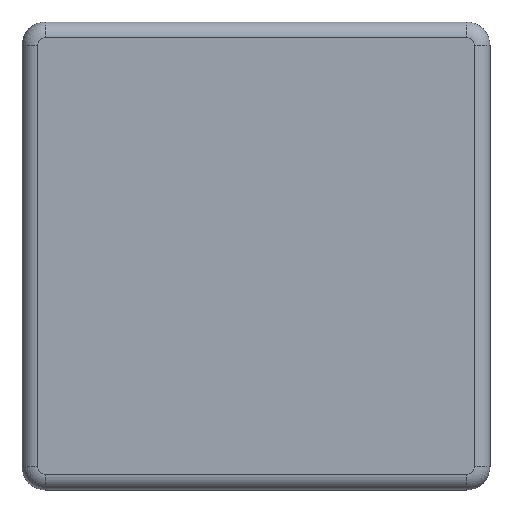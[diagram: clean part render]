
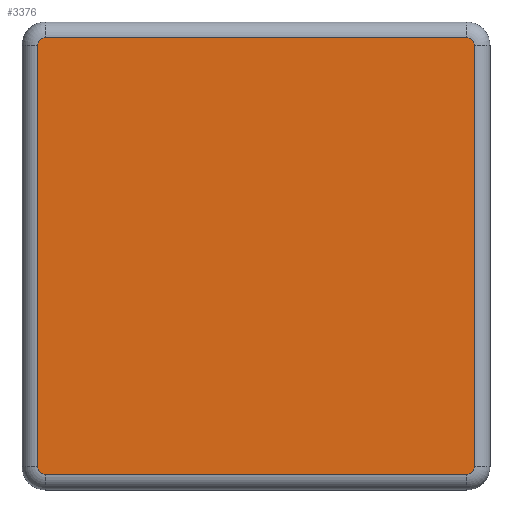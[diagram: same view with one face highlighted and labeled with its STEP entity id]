
A CAD part, front view. The second image highlights one B-rep face of the part: STEP entity #3376.
In plain terms, the highlighted planar face has unit normal (0, -1, 0).
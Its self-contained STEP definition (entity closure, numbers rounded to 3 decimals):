
#93 = CIRCLE ( 'NONE', #1646, 1. ) ;
#189 = CARTESIAN_POINT ( 'NONE',  ( 28.448, 0., 24.812 ) ) ;
#277 = LINE ( 'NONE', #1024, #1588 ) ;
#336 = VERTEX_POINT ( 'NONE', #2210 ) ;
#425 = ORIENTED_EDGE ( 'NONE', *, *, #679, .T. ) ;
#429 = VERTEX_POINT ( 'NONE', #2458 ) ;
#447 = LINE ( 'NONE', #3098, #1192 ) ;
#483 = DIRECTION ( 'NONE',  ( 0., 0., 1. ) ) ;
#555 = EDGE_CURVE ( 'NONE', #1368, #1278, #951, .T. ) ;
#564 = DIRECTION ( 'NONE',  ( 0., 1., 0. ) ) ;
#670 = CARTESIAN_POINT ( 'NONE',  ( -25.552, 0., -29.188 ) ) ;
#679 = EDGE_CURVE ( 'NONE', #3561, #429, #277, .T. ) ;
#740 = EDGE_CURVE ( 'NONE', #2325, #820, #1502, .T. ) ;
#748 = ORIENTED_EDGE ( 'NONE', *, *, #3384, .T. ) ;
#770 = CARTESIAN_POINT ( 'NONE',  ( 29.448, 0., -29.188 ) ) ;
#820 = VERTEX_POINT ( 'NONE', #2412 ) ;
#843 = CARTESIAN_POINT ( 'NONE',  ( -26.552, 0., 0. ) ) ;
#844 = CARTESIAN_POINT ( 'NONE',  ( 0., 0., 25.812 ) ) ;
#872 = CARTESIAN_POINT ( 'NONE',  ( -26.552, 0., -29.188 ) ) ;
#951 = CIRCLE ( 'NONE', #1213, 1. ) ;
#952 = DIRECTION ( 'NONE',  ( 0., 0., 1. ) ) ;
#987 = ORIENTED_EDGE ( 'NONE', *, *, #555, .T. ) ;
#1024 = CARTESIAN_POINT ( 'NONE',  ( 29.448, 0., 0. ) ) ;
#1086 = CIRCLE ( 'NONE', #1618, 1. ) ;
#1106 = VECTOR ( 'NONE', #3665, 1000. ) ;
#1192 = VECTOR ( 'NONE', #1402, 1000. ) ;
#1213 = AXIS2_PLACEMENT_3D ( 'NONE', #3300, #1600, #3584 ) ;
#1278 = VERTEX_POINT ( 'NONE', #2955 ) ;
#1337 = VECTOR ( 'NONE', #2831, 1000. ) ;
#1364 = EDGE_CURVE ( 'NONE', #1423, #1368, #2092, .T. ) ;
#1368 = VERTEX_POINT ( 'NONE', #3104 ) ;
#1402 = DIRECTION ( 'NONE',  ( 1., 0., 0. ) ) ;
#1423 = VERTEX_POINT ( 'NONE', #2855 ) ;
#1443 = DIRECTION ( 'NONE',  ( 0., -1., 0. ) ) ;
#1502 = CIRCLE ( 'NONE', #3288, 1. ) ;
#1588 = VECTOR ( 'NONE', #2418, 1000. ) ;
#1600 = DIRECTION ( 'NONE',  ( 0., -1., 0. ) ) ;
#1618 = AXIS2_PLACEMENT_3D ( 'NONE', #3140, #1443, #3425 ) ;
#1646 = AXIS2_PLACEMENT_3D ( 'NONE', #189, #2160, #483 ) ;
#1769 = EDGE_LOOP ( 'NONE', ( #2053, #987, #748, #2062, #3649, #3129, #425, #1857 ) ) ;
#1857 = ORIENTED_EDGE ( 'NONE', *, *, #3508, .T. ) ;
#1933 = LINE ( 'NONE', #843, #1106 ) ;
#2032 = FACE_OUTER_BOUND ( 'NONE', #1769, .T. ) ;
#2053 = ORIENTED_EDGE ( 'NONE', *, *, #1364, .T. ) ;
#2062 = ORIENTED_EDGE ( 'NONE', *, *, #740, .T. ) ;
#2092 = LINE ( 'NONE', #844, #1337 ) ;
#2160 = DIRECTION ( 'NONE',  ( 0., -1., 0. ) ) ;
#2210 = CARTESIAN_POINT ( 'NONE',  ( 28.448, 0., -30.188 ) ) ;
#2241 = CARTESIAN_POINT ( 'NONE',  ( 0., 0., 0. ) ) ;
#2325 = VERTEX_POINT ( 'NONE', #872 ) ;
#2367 = EDGE_CURVE ( 'NONE', #336, #3561, #1086, .T. ) ;
#2412 = CARTESIAN_POINT ( 'NONE',  ( -25.552, 0., -30.188 ) ) ;
#2418 = DIRECTION ( 'NONE',  ( 0., 0., 1. ) ) ;
#2458 = CARTESIAN_POINT ( 'NONE',  ( 29.448, 0., 24.812 ) ) ;
#2536 = DIRECTION ( 'NONE',  ( 0., 0., 1. ) ) ;
#2643 = DIRECTION ( 'NONE',  ( 0., -1., 0. ) ) ;
#2831 = DIRECTION ( 'NONE',  ( -1., 0., 0. ) ) ;
#2855 = CARTESIAN_POINT ( 'NONE',  ( 28.448, 0., 25.812 ) ) ;
#2955 = CARTESIAN_POINT ( 'NONE',  ( -26.552, 0., 24.812 ) ) ;
#3098 = CARTESIAN_POINT ( 'NONE',  ( 0., 0., -30.188 ) ) ;
#3104 = CARTESIAN_POINT ( 'NONE',  ( -25.552, 0., 25.812 ) ) ;
#3129 = ORIENTED_EDGE ( 'NONE', *, *, #2367, .T. ) ;
#3140 = CARTESIAN_POINT ( 'NONE',  ( 28.448, 0., -29.188 ) ) ;
#3288 = AXIS2_PLACEMENT_3D ( 'NONE', #670, #2643, #952 ) ;
#3300 = CARTESIAN_POINT ( 'NONE',  ( -25.552, 0., 24.812 ) ) ;
#3367 = PLANE ( 'NONE',  #3616 ) ;
#3376 = ADVANCED_FACE ( 'NONE', ( #2032 ), #3367, .F. ) ;
#3377 = EDGE_CURVE ( 'NONE', #820, #336, #447, .T. ) ;
#3384 = EDGE_CURVE ( 'NONE', #1278, #2325, #1933, .T. ) ;
#3425 = DIRECTION ( 'NONE',  ( 0., 0., 1. ) ) ;
#3508 = EDGE_CURVE ( 'NONE', #429, #1423, #93, .T. ) ;
#3561 = VERTEX_POINT ( 'NONE', #770 ) ;
#3584 = DIRECTION ( 'NONE',  ( 0., 0., 1. ) ) ;
#3616 = AXIS2_PLACEMENT_3D ( 'NONE', #2241, #564, #2536 ) ;
#3649 = ORIENTED_EDGE ( 'NONE', *, *, #3377, .T. ) ;
#3665 = DIRECTION ( 'NONE',  ( 0., 0., -1. ) ) ;
